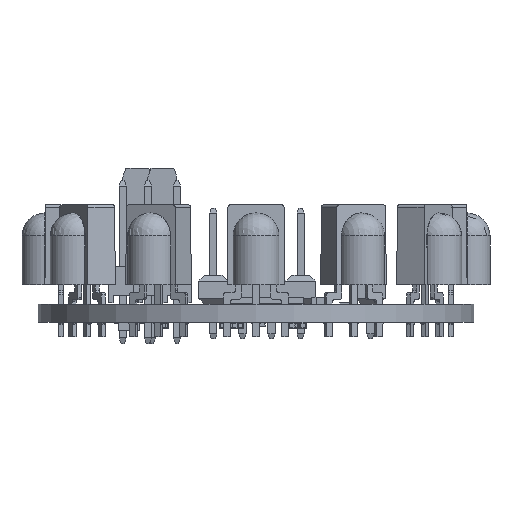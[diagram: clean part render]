
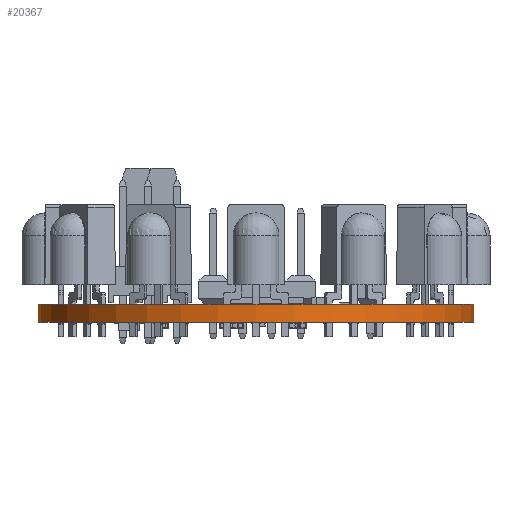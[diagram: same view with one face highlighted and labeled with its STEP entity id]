
A CAD part, front view. The second image highlights one B-rep face of the part: STEP entity #20367.
In plain terms, the highlighted cylindrical face has radius 19 mm (diameter 38 mm), a full revolution.
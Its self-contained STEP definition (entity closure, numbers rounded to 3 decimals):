
#1870=FACE_OUTER_BOUND('',#3072,.T.);
#3072=EDGE_LOOP('',(#14101,#14102,#14103,#14104));
#4567=LINE('',#29861,#6540);
#6540=VECTOR('',#24366,19.);
#8586=CIRCLE('',#22048,19.);
#8587=CIRCLE('',#22049,19.);
#9172=VERTEX_POINT('',#29858);
#9173=VERTEX_POINT('',#29860);
#11129=EDGE_CURVE('',#9172,#9172,#8586,.T.);
#11130=EDGE_CURVE('',#9172,#9173,#4567,.T.);
#11131=EDGE_CURVE('',#9173,#9173,#8587,.T.);
#14101=ORIENTED_EDGE('',*,*,#11129,.F.);
#14102=ORIENTED_EDGE('',*,*,#11130,.T.);
#14103=ORIENTED_EDGE('',*,*,#11131,.T.);
#14104=ORIENTED_EDGE('',*,*,#11130,.F.);
#19407=CYLINDRICAL_SURFACE('',#22047,19.);
#20367=ADVANCED_FACE('',(#1870),#19407,.T.);
#22047=AXIS2_PLACEMENT_3D('',#29857,#24362,#24363);
#22048=AXIS2_PLACEMENT_3D('',#29859,#24364,#24365);
#22049=AXIS2_PLACEMENT_3D('',#29862,#24367,#24368);
#24362=DIRECTION('center_axis',(0.,0.,1.));
#24363=DIRECTION('ref_axis',(1.,0.,0.));
#24364=DIRECTION('center_axis',(0.,0.,1.));
#24365=DIRECTION('ref_axis',(1.,0.,0.));
#24366=DIRECTION('',(0.,0.,-1.));
#24367=DIRECTION('center_axis',(0.,0.,1.));
#24368=DIRECTION('ref_axis',(1.,0.,0.));
#29857=CARTESIAN_POINT('Origin',(21.,21.,0.));
#29858=CARTESIAN_POINT('',(2.,21.,1.57));
#29859=CARTESIAN_POINT('Origin',(21.,21.,1.57));
#29860=CARTESIAN_POINT('',(2.,21.,0.));
#29861=CARTESIAN_POINT('',(2.,21.,0.));
#29862=CARTESIAN_POINT('Origin',(21.,21.,0.));
